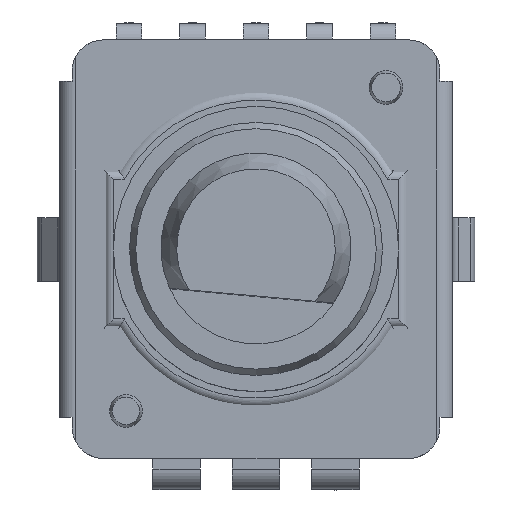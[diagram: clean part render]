
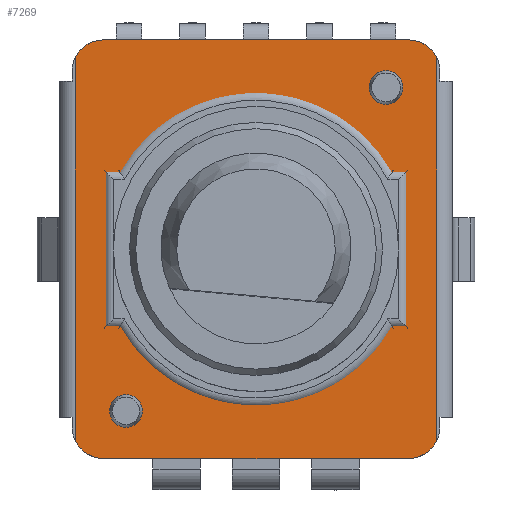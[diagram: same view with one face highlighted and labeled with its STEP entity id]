
A CAD part, top view. The second image highlights one B-rep face of the part: STEP entity #7269.
In plain terms, the highlighted planar face has unit normal (0, 0, 1).
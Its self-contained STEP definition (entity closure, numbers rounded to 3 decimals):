
#196=CIRCLE($,#7817,1.);
#198=CIRCLE($,#7821,1.);
#200=CIRCLE($,#7826,1.);
#204=CIRCLE($,#7833,1.);
#618=FACE_OUTER_BOUND($,#983,.T.);
#983=EDGE_LOOP($,(#6210,#6211,#6212,#6213,#6214,#6215,#6216,#6217));
#1685=LINE($,#11722,#2586);
#1700=LINE($,#11776,#2601);
#1726=LINE($,#11823,#2627);
#1727=LINE($,#11824,#2628);
#2586=VECTOR($,#9458,12.072);
#2601=VECTOR($,#9499,12.072);
#2627=VECTOR($,#9547,9.6);
#2628=VECTOR($,#9548,9.6);
#3403=VERTEX_POINT($,#11678);
#3406=VERTEX_POINT($,#11689);
#3407=VERTEX_POINT($,#11696);
#3409=VERTEX_POINT($,#11705);
#3415=VERTEX_POINT($,#11721);
#3416=VERTEX_POINT($,#11730);
#3426=VERTEX_POINT($,#11758);
#3428=VERTEX_POINT($,#11766);
#4430=EDGE_CURVE($,#3406,#3403,#196,.T.);
#4436=EDGE_CURVE($,#3409,#3407,#198,.T.);
#4443=EDGE_CURVE($,#3407,#3415,#1685,.T.);
#4445=EDGE_CURVE($,#3415,#3416,#200,.T.);
#4461=EDGE_CURVE($,#3426,#3428,#204,.T.);
#4467=EDGE_CURVE($,#3403,#3426,#1700,.T.);
#4493=EDGE_CURVE($,#3428,#3409,#1726,.T.);
#4494=EDGE_CURVE($,#3416,#3406,#1727,.T.);
#6210=ORIENTED_EDGE($,*,*,#4443,.F.);
#6211=ORIENTED_EDGE($,*,*,#4436,.F.);
#6212=ORIENTED_EDGE($,*,*,#4493,.F.);
#6213=ORIENTED_EDGE($,*,*,#4461,.F.);
#6214=ORIENTED_EDGE($,*,*,#4467,.F.);
#6215=ORIENTED_EDGE($,*,*,#4430,.F.);
#6216=ORIENTED_EDGE($,*,*,#4494,.F.);
#6217=ORIENTED_EDGE($,*,*,#4445,.F.);
#6933=PLANE($,#7848);
#7269=ADVANCED_FACE($,(#618),#6933,.T.);
#7817=AXIS2_PLACEMENT_3D($,#11691,#9434,#9435);
#7821=AXIS2_PLACEMENT_3D($,#11707,#9445,#9446);
#7826=AXIS2_PLACEMENT_3D($,#11731,#9461,#9462);
#7833=AXIS2_PLACEMENT_3D($,#11767,#9486,#9487);
#7848=AXIS2_PLACEMENT_3D($,#11822,#9545,#9546);
#9434=DIRECTION('center_axis',(0.,0.,
-1.));
#9435=DIRECTION('ref_axis',(0.707,0.707,0.));
#9445=DIRECTION('center_axis',(0.,0.,
-1.));
#9446=DIRECTION('ref_axis',(-0.707,-0.707,0.));
#9458=DIRECTION($,(0.,1.,0.));
#9461=DIRECTION('center_axis',(0.,0.,
-1.));
#9462=DIRECTION('ref_axis',(-0.707,0.707,0.));
#9486=DIRECTION('center_axis',(0.,0.,
-1.));
#9487=DIRECTION('ref_axis',(0.707,-0.707,0.));
#9499=DIRECTION($,(0.,-1.,0.));
#9545=DIRECTION('center_axis',(0.,0.,
1.));
#9546=DIRECTION('ref_axis',(1.,0.,0.));
#9547=DIRECTION($,(-1.,0.,0.));
#9548=DIRECTION($,(1.,0.,0.));
#11678=CARTESIAN_POINT('',(5.7,6.036,6.6));
#11689=CARTESIAN_POINT('',(4.8,6.6,6.6));
#11691=CARTESIAN_POINT('Origin',(4.8,5.6,6.6));
#11696=CARTESIAN_POINT('',(-5.7,-6.036,6.6));
#11705=CARTESIAN_POINT('',(-4.8,-6.6,6.6));
#11707=CARTESIAN_POINT('Origin',(-4.8,-5.6,6.6));
#11721=CARTESIAN_POINT('',(-5.7,6.036,6.6));
#11722=CARTESIAN_POINT($,(-5.7,0.,6.6));
#11730=CARTESIAN_POINT('',(-4.8,6.6,6.6));
#11731=CARTESIAN_POINT('Origin',(-4.8,5.6,6.6));
#11758=CARTESIAN_POINT('',(5.7,-6.036,6.6));
#11766=CARTESIAN_POINT('',(4.8,-6.6,6.6));
#11767=CARTESIAN_POINT('Origin',(4.8,-5.6,6.6));
#11776=CARTESIAN_POINT($,(5.7,0.,6.6));
#11822=CARTESIAN_POINT('Origin',(0.,0.,
6.6));
#11823=CARTESIAN_POINT($,(5.8,-6.6,6.6));
#11824=CARTESIAN_POINT($,(-5.8,6.6,6.6));
